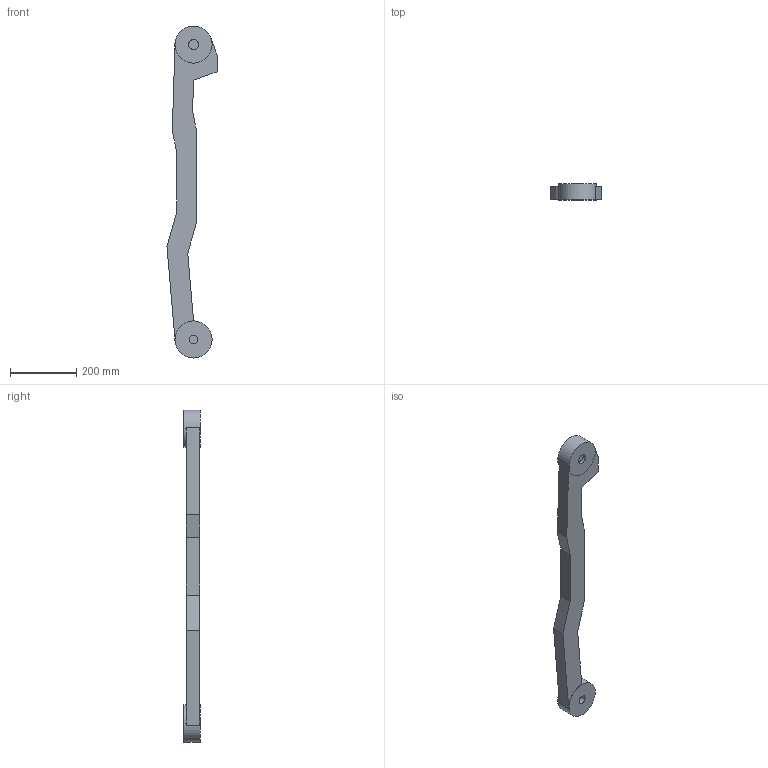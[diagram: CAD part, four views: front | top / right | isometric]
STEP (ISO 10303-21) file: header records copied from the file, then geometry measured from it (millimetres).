
FILE_DESCRIPTION (( 'STEP AP214' ), '1' );
FILE_NAME ('IRB4400_60-195_IRC5_rev02_LINKROD_CAD.STEP', '2016-11-03T06:48:48', ( 'ABB' ), ( 'ABB' ), 'SwSTEP 2.0', 'SolidWorks 2014', '' );
FILE_SCHEMA (( 'AUTOMOTIVE_DESIGN' ));
Length unit declared in the file: millimetre
Products named in the file (1): IRB4400_60-195_IRC5_rev02_LINKROD_CAD
Bounding box: 151.33 x 48.5 x 1002 mm (x, y, z)
Volume: 3102605 mm3; surface area: 246010.2 mm2
Topology: 1 solids, 1 shells, 30 faces, 78 edges, 52 vertices
Faces by surface type: plane 21, cylinder 9
Entity records: 1028 total; most frequent: DIRECTION 166, CARTESIAN_POINT 161, ORIENTED_EDGE 156, EDGE_CURVE 78, AXIS2_PLACEMENT_3D 57, VECTOR 52, VERTEX_POINT 52, LINE 52
